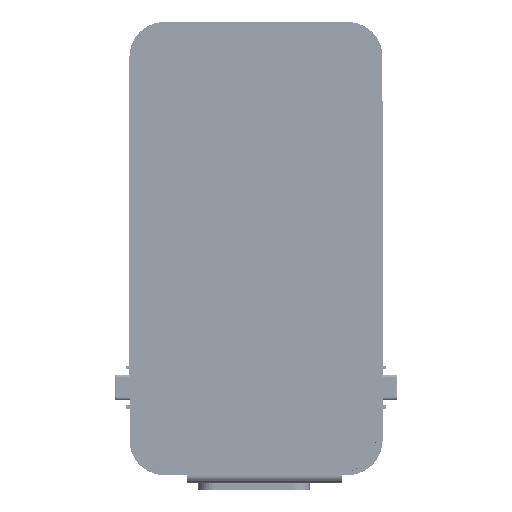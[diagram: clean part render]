
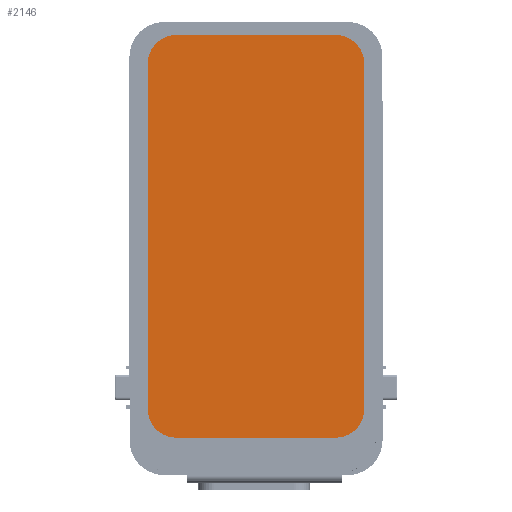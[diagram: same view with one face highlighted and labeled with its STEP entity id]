
A CAD part, top view. The second image highlights one B-rep face of the part: STEP entity #2146.
In plain terms, the highlighted planar face has unit normal (0, 0, 1).
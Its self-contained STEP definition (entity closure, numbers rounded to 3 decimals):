
#968=DIRECTION('',(-1.,0.,0.));
#969=VECTOR('',#968,12.79);
#970=CARTESIAN_POINT('',(6.395,-16.175,1.4));
#971=LINE('',#970,#969);
#975=CARTESIAN_POINT('',(-6.395,-13.875,1.4));
#976=DIRECTION('',(0.,0.,1.));
#977=DIRECTION('',(-1.,0.,0.));
#978=AXIS2_PLACEMENT_3D('',#975,#976,#977);
#983=DIRECTION('',(0.,1.,0.));
#984=VECTOR('',#983,27.75);
#985=CARTESIAN_POINT('',(-8.695,-13.875,1.4));
#986=LINE('',#985,#984);
#990=CARTESIAN_POINT('',(-6.395,13.875,1.4));
#991=DIRECTION('',(0.,0.,1.));
#992=DIRECTION('',(0.,1.,0.));
#993=AXIS2_PLACEMENT_3D('',#990,#991,#992);
#998=DIRECTION('',(1.,0.,0.));
#999=VECTOR('',#998,12.79);
#1000=CARTESIAN_POINT('',(-6.395,16.175,1.4));
#1001=LINE('',#1000,#999);
#1005=CARTESIAN_POINT('',(6.395,13.875,1.4));
#1006=DIRECTION('',(0.,0.,1.));
#1007=DIRECTION('',(1.,0.,0.));
#1008=AXIS2_PLACEMENT_3D('',#1005,#1006,#1007);
#1013=DIRECTION('',(0.,-1.,0.));
#1014=VECTOR('',#1013,27.75);
#1015=CARTESIAN_POINT('',(8.695,13.875,1.4));
#1016=LINE('',#1015,#1014);
#1020=CARTESIAN_POINT('',(6.395,-13.875,1.4));
#1021=DIRECTION('',(0.,0.,1.));
#1022=DIRECTION('',(0.,-1.,0.));
#1023=AXIS2_PLACEMENT_3D('',#1020,#1021,#1022);
#1109=CARTESIAN_POINT('',(6.395,-16.175,1.4));
#1110=CARTESIAN_POINT('',(-6.395,-16.175,1.4));
#1111=VERTEX_POINT('',#1109);
#1112=VERTEX_POINT('',#1110);
#1113=CARTESIAN_POINT('',(-8.695,-13.875,1.4));
#1114=VERTEX_POINT('',#1113);
#1115=CARTESIAN_POINT('',(-8.695,13.875,1.4));
#1116=VERTEX_POINT('',#1115);
#1117=CARTESIAN_POINT('',(-6.395,16.175,1.4));
#1118=VERTEX_POINT('',#1117);
#1119=CARTESIAN_POINT('',(6.395,16.175,1.4));
#1120=VERTEX_POINT('',#1119);
#1121=CARTESIAN_POINT('',(8.695,13.875,1.4));
#1122=VERTEX_POINT('',#1121);
#1123=CARTESIAN_POINT('',(8.695,-13.875,1.4));
#1124=VERTEX_POINT('',#1123);
#2124=CARTESIAN_POINT('',(0.,0.,1.4));
#2125=DIRECTION('',(0.,0.,1.));
#2126=DIRECTION('',(1.,0.,0.));
#2127=AXIS2_PLACEMENT_3D('',#2124,#2125,#2126);
#2128=PLANE('',#2127);
#2129=ORIENTED_EDGE('',*,*,#2114,.T.);
#2131=ORIENTED_EDGE('',*,*,#2130,.F.);
#2133=ORIENTED_EDGE('',*,*,#2132,.T.);
#2135=ORIENTED_EDGE('',*,*,#2134,.F.);
#2137=ORIENTED_EDGE('',*,*,#2136,.T.);
#2139=ORIENTED_EDGE('',*,*,#2138,.F.);
#2141=ORIENTED_EDGE('',*,*,#2140,.T.);
#2143=ORIENTED_EDGE('',*,*,#2142,.F.);
#2144=EDGE_LOOP('',(#2129,#2131,#2133,#2135,#2137,#2139,#2141,#2143));
#2145=FACE_OUTER_BOUND('',#2144,.F.);
#2146=ADVANCED_FACE('',(#2145),#2128,.T.);
#979=CIRCLE('',#978,2.3);
#994=CIRCLE('',#993,2.3);
#1009=CIRCLE('',#1008,2.3);
#1024=CIRCLE('',#1023,2.3);
#2114=EDGE_CURVE('',#1111,#1112,#971,.T.);
#2130=EDGE_CURVE('',#1114,#1112,#979,.T.);
#2132=EDGE_CURVE('',#1114,#1116,#986,.T.);
#2134=EDGE_CURVE('',#1118,#1116,#994,.T.);
#2136=EDGE_CURVE('',#1118,#1120,#1001,.T.);
#2138=EDGE_CURVE('',#1122,#1120,#1009,.T.);
#2140=EDGE_CURVE('',#1122,#1124,#1016,.T.);
#2142=EDGE_CURVE('',#1111,#1124,#1024,.T.);
